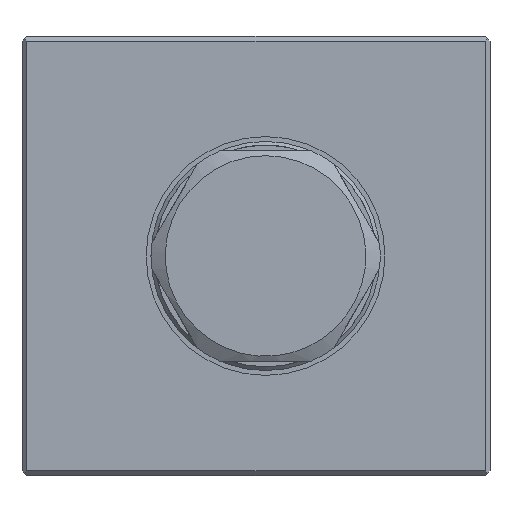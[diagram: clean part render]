
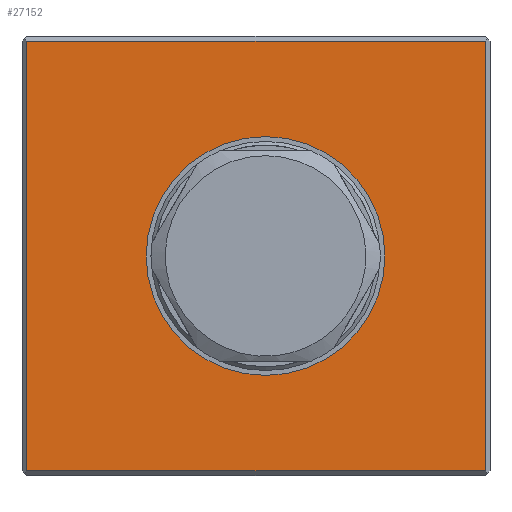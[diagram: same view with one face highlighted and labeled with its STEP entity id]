
A CAD part, left-side view. The second image highlights one B-rep face of the part: STEP entity #27152.
In plain terms, the highlighted planar face has unit normal (-1, 0, 0).
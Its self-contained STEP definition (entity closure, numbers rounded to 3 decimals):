
#4270 = VERTEX_POINT ( 'NONE', #15138 ) ;
#4655 = FACE_OUTER_BOUND ( 'NONE', #35721, .T. ) ;
#8045 = DIRECTION ( 'NONE',  ( 0., -1., 0. ) ) ;
#8399 = VECTOR ( 'NONE', #8045, 1000. ) ;
#9637 = ORIENTED_EDGE ( 'NONE', *, *, #27846, .F. ) ;
#10664 = CARTESIAN_POINT ( 'NONE',  ( 0., -23.5, 22.5 ) ) ;
#11197 = CARTESIAN_POINT ( 'NONE',  ( 0., -23.5, -23. ) ) ;
#12652 = EDGE_CURVE ( 'NONE', #16033, #51812, #48718, .T. ) ;
#13674 = ORIENTED_EDGE ( 'NONE', *, *, #12652, .T. ) ;
#13860 = EDGE_CURVE ( 'NONE', #51812, #27896, #14486, .T. ) ;
#14486 = LINE ( 'NONE', #34927, #36302 ) ;
#15138 = CARTESIAN_POINT ( 'NONE',  ( 0., -23.5, -22.5 ) ) ;
#15601 = CARTESIAN_POINT ( 'NONE',  ( 0., -0.5, 0. ) ) ;
#16033 = VERTEX_POINT ( 'NONE', #10664 ) ;
#19755 = DIRECTION ( 'NONE',  ( 0., -1., 0. ) ) ;
#22868 = DIRECTION ( 'NONE',  ( -1., 0., 0. ) ) ;
#23993 = AXIS2_PLACEMENT_3D ( 'NONE', #47360, #22868, #51475 ) ;
#26273 = EDGE_CURVE ( 'NONE', #4270, #16033, #48505, .T. ) ;
#27152 = ADVANCED_FACE ( 'NONE', ( #4655, #46967 ), #43070, .T. ) ;
#27846 = EDGE_CURVE ( 'NONE', #34876, #34876, #43024, .T. ) ;
#27896 = VERTEX_POINT ( 'NONE', #52446 ) ;
#29169 = ORIENTED_EDGE ( 'NONE', *, *, #46833, .T. ) ;
#32617 = CARTESIAN_POINT ( 'NONE',  ( 0., 25., -22.5 ) ) ;
#32623 = AXIS2_PLACEMENT_3D ( 'NONE', #15601, #44212, #19755 ) ;
#34876 = VERTEX_POINT ( 'NONE', #39906 ) ;
#34927 = CARTESIAN_POINT ( 'NONE',  ( 0., 24.5, -23. ) ) ;
#35721 = EDGE_LOOP ( 'NONE', ( #29169, #37528, #13674, #40080 ) ) ;
#36302 = VECTOR ( 'NONE', #43144, 1000. ) ;
#37528 = ORIENTED_EDGE ( 'NONE', *, *, #26273, .T. ) ;
#37809 = VECTOR ( 'NONE', #44729, 1000. ) ;
#39803 = LINE ( 'NONE', #32617, #8399 ) ;
#39906 = CARTESIAN_POINT ( 'NONE',  ( 0., -13., 0. ) ) ;
#40080 = ORIENTED_EDGE ( 'NONE', *, *, #13860, .T. ) ;
#43024 = CIRCLE ( 'NONE', #32623, 12.5 ) ;
#43070 = PLANE ( 'NONE',  #23993 ) ;
#43144 = DIRECTION ( 'NONE',  ( 0., 0., -1. ) ) ;
#43799 = DIRECTION ( 'NONE',  ( 0., 0., 1. ) ) ;
#44212 = DIRECTION ( 'NONE',  ( -1., 0., 0. ) ) ;
#44729 = DIRECTION ( 'NONE',  ( 0., 1., 0. ) ) ;
#45901 = EDGE_LOOP ( 'NONE', ( #9637 ) ) ;
#46833 = EDGE_CURVE ( 'NONE', #27896, #4270, #39803, .T. ) ;
#46967 = FACE_BOUND ( 'NONE', #45901, .T. ) ;
#47220 = VECTOR ( 'NONE', #43799, 1000. ) ;
#47360 = CARTESIAN_POINT ( 'NONE',  ( 0., 25., -23. ) ) ;
#48505 = LINE ( 'NONE', #11197, #47220 ) ;
#48718 = LINE ( 'NONE', #52763, #37809 ) ;
#51475 = DIRECTION ( 'NONE',  ( 0., -1., 0. ) ) ;
#51812 = VERTEX_POINT ( 'NONE', #52577 ) ;
#52446 = CARTESIAN_POINT ( 'NONE',  ( 0., 24.5, -22.5 ) ) ;
#52577 = CARTESIAN_POINT ( 'NONE',  ( 0., 24.5, 22.5 ) ) ;
#52763 = CARTESIAN_POINT ( 'NONE',  ( 0., 25., 22.5 ) ) ;
